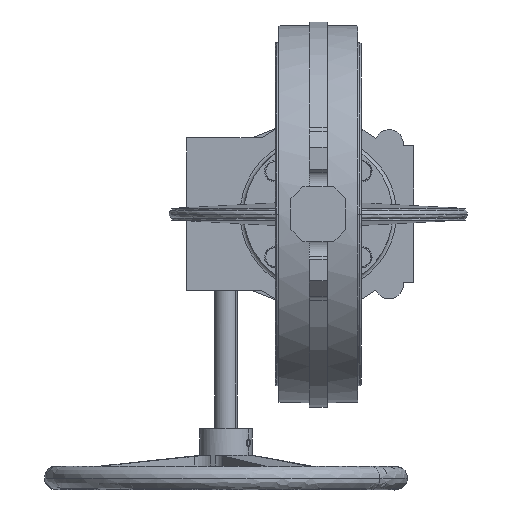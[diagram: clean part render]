
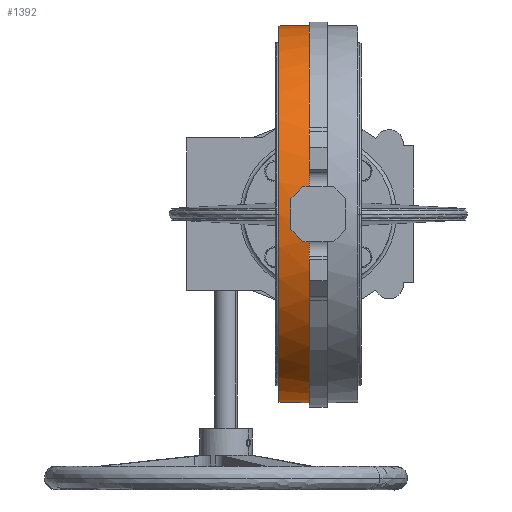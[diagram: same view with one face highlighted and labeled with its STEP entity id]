
A CAD part, front view. The second image highlights one B-rep face of the part: STEP entity #1392.
In plain terms, the highlighted conical face has half-angle 1 degrees and reference radius 158.445 mm.
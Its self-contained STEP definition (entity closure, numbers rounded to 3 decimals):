
#499 = VERTEX_POINT ( 'NONE', #22527 ) ;
#760 = CARTESIAN_POINT ( 'NONE',  ( -7.5, -156.767, -23. ) ) ;
#1392 = ADVANCED_FACE ( 'NONE', ( #46652 ), #41630, .T. ) ;
#1664 = CARTESIAN_POINT ( 'NONE',  ( -11.167, -156.702, -23. ) ) ;
#2803 = CIRCLE ( 'NONE', #80291, 158.445 ) ;
#4036 = EDGE_CURVE ( 'NONE', #499, #58496, #23493, .T. ) ;
#6650 = DIRECTION ( 'NONE',  ( 0., 0., -1. ) ) ;
#10061 = EDGE_CURVE ( 'NONE', #60715, #54556, #21419, .T. ) ;
#10356 = CARTESIAN_POINT ( 'NONE',  ( -13., -156.67, 23. ) ) ;
#12200 = CARTESIAN_POINT ( 'NONE',  ( -13., -156.67, 23. ) ) ;
#13071 = DIRECTION ( 'NONE',  ( 0., 0., -1. ) ) ;
#13372 = CARTESIAN_POINT ( 'NONE',  ( -9.333, -156.735, -23. ) ) ;
#13735 = CARTESIAN_POINT ( 'NONE',  ( -7.5, 0., 0. ) ) ;
#14024 = DIRECTION ( 'NONE',  ( 1., 0., 0. ) ) ;
#14497 = CARTESIAN_POINT ( 'NONE',  ( -33., 0., -158. ) ) ;
#15428 = VERTEX_POINT ( 'NONE', #760 ) ;
#15651 = DIRECTION ( 'NONE',  ( 0., 0., -1. ) ) ;
#17791 = CARTESIAN_POINT ( 'NONE',  ( -7.5, 0., 0. ) ) ;
#20905 = ORIENTED_EDGE ( 'NONE', *, *, #34296, .T. ) ;
#21190 = VERTEX_POINT ( 'NONE', #26974 ) ;
#21419 = LINE ( 'NONE', #28310, #66101 ) ;
#22527 = CARTESIAN_POINT ( 'NONE',  ( -23., -157.639, 13. ) ) ;
#23493 =( BOUNDED_CURVE ( )  B_SPLINE_CURVE ( 3, ( #45512, #38584, #25610, #52884 ),
 .UNSPECIFIED., .F., .F. ) 
 B_SPLINE_CURVE_WITH_KNOTS ( ( 4, 4 ),
 ( 4.777, 4.841 ),
 .UNSPECIFIED. ) 
 CURVE ( )  GEOMETRIC_REPRESENTATION_ITEM ( )  RATIONAL_B_SPLINE_CURVE ( ( 1., 1., 1., 1. ) ) 
 REPRESENTATION_ITEM ( '' )  );
#23819 = EDGE_CURVE ( 'NONE', #33566, #72779, #29057, .T. ) ;
#24321 = CARTESIAN_POINT ( 'NONE',  ( -23., -157.639, -13. ) ) ;
#25610 = CARTESIAN_POINT ( 'NONE',  ( -16.322, -157.099, 19.678 ) ) ;
#26077 = EDGE_CURVE ( 'NONE', #52808, #60715, #47683, .T. ) ;
#26974 = CARTESIAN_POINT ( 'NONE',  ( -7.5, -156.767, 23. ) ) ;
#27081 = EDGE_CURVE ( 'NONE', #72779, #499, #74126, .T. ) ;
#27579 = CARTESIAN_POINT ( 'NONE',  ( -7.5, 0., 158.445 ) ) ;
#28111 = CARTESIAN_POINT ( 'NONE',  ( -7.5, -156.767, -23. ) ) ;
#28310 = CARTESIAN_POINT ( 'NONE',  ( -7.5, 0., -158.445 ) ) ;
#29057 =( BOUNDED_CURVE ( )  B_SPLINE_CURVE ( 3, ( #36437, #84034, #36872, #24321 ),
 .UNSPECIFIED., .F., .F. ) 
 B_SPLINE_CURVE_WITH_KNOTS ( ( 4, 4 ),
 ( 1.442, 1.506 ),
 .UNSPECIFIED. ) 
 CURVE ( )  GEOMETRIC_REPRESENTATION_ITEM ( )  RATIONAL_B_SPLINE_CURVE ( ( 1., 1., 1., 1. ) ) 
 REPRESENTATION_ITEM ( '' )  );
#29089 = CARTESIAN_POINT ( 'NONE',  ( -23., 0., 0. ) ) ;
#30643 = CARTESIAN_POINT ( 'NONE',  ( -33., 0., 158. ) ) ;
#30938 = CIRCLE ( 'NONE', #30994, 158.445 ) ;
#30994 = AXIS2_PLACEMENT_3D ( 'NONE', #84976, #59029, #13071 ) ;
#33194 = ORIENTED_EDGE ( 'NONE', *, *, #23819, .T. ) ;
#33566 = VERTEX_POINT ( 'NONE', #40631 ) ;
#34296 = EDGE_CURVE ( 'NONE', #54556, #15428, #2803, .T. ) ;
#34523 = DIRECTION ( 'NONE',  ( 0., 0., -1. ) ) ;
#35035 = CARTESIAN_POINT ( 'NONE',  ( -7.5, 0., -158.445 ) ) ;
#36059 = VECTOR ( 'NONE', #47458, 1000. ) ;
#36077 = AXIS2_PLACEMENT_3D ( 'NONE', #13735, #41404, #34523 ) ;
#36366 = CARTESIAN_POINT ( 'NONE',  ( -11.167, -156.702, 23. ) ) ;
#36437 = CARTESIAN_POINT ( 'NONE',  ( -13., -156.67, -23. ) ) ;
#36799 = CARTESIAN_POINT ( 'NONE',  ( -7.5, -156.767, 23. ) ) ;
#36872 = CARTESIAN_POINT ( 'NONE',  ( -19.657, -157.422, -16.343 ) ) ;
#38584 = CARTESIAN_POINT ( 'NONE',  ( -19.657, -157.422, 16.343 ) ) ;
#39386 = AXIS2_PLACEMENT_3D ( 'NONE', #45224, #14024, #6650 ) ;
#39478 = VERTEX_POINT ( 'NONE', #48727 ) ;
#40631 = CARTESIAN_POINT ( 'NONE',  ( -13., -156.67, -23. ) ) ;
#41404 = DIRECTION ( 'NONE',  ( 1., 0., 0. ) ) ;
#41630 = CONICAL_SURFACE ( 'NONE', #36077, 158.445, 0.017 ) ;
#41700 = CARTESIAN_POINT ( 'NONE',  ( -23., -157.639, -13. ) ) ;
#41826 = EDGE_CURVE ( 'NONE', #58496, #21190, #71746, .T. ) ;
#45224 = CARTESIAN_POINT ( 'NONE',  ( -33., 0., 0. ) ) ;
#45512 = CARTESIAN_POINT ( 'NONE',  ( -23., -157.639, 13. ) ) ;
#46652 = FACE_OUTER_BOUND ( 'NONE', #75581, .T. ) ;
#46930 = DIRECTION ( 'NONE',  ( 1., 0., -0.017 ) ) ;
#47458 = DIRECTION ( 'NONE',  ( 1., 0., 0.017 ) ) ;
#47683 = CIRCLE ( 'NONE', #39386, 158. ) ;
#48331 = EDGE_CURVE ( 'NONE', #15428, #33566, #67330, .T. ) ;
#48727 = CARTESIAN_POINT ( 'NONE',  ( -7.5, 0., 158.445 ) ) ;
#50686 = ORIENTED_EDGE ( 'NONE', *, *, #48331, .T. ) ;
#51977 = ORIENTED_EDGE ( 'NONE', *, *, #41826, .T. ) ;
#52808 = VERTEX_POINT ( 'NONE', #30643 ) ;
#52884 = CARTESIAN_POINT ( 'NONE',  ( -13., -156.67, 23. ) ) ;
#53856 = EDGE_CURVE ( 'NONE', #52808, #39478, #73874, .T. ) ;
#54556 = VERTEX_POINT ( 'NONE', #35035 ) ;
#55473 = DIRECTION ( 'NONE',  ( 0., 0., -1. ) ) ;
#57612 = ORIENTED_EDGE ( 'NONE', *, *, #26077, .T. ) ;
#58496 = VERTEX_POINT ( 'NONE', #12200 ) ;
#58885 = AXIS2_PLACEMENT_3D ( 'NONE', #29089, #60702, #15651 ) ;
#59029 = DIRECTION ( 'NONE',  ( -1., 0., 0. ) ) ;
#60150 = CARTESIAN_POINT ( 'NONE',  ( -13., -156.67, -23. ) ) ;
#60702 = DIRECTION ( 'NONE',  ( -1., 0., 0. ) ) ;
#60715 = VERTEX_POINT ( 'NONE', #14497 ) ;
#62772 = CARTESIAN_POINT ( 'NONE',  ( -9.333, -156.735, 23. ) ) ;
#63666 = DIRECTION ( 'NONE',  ( -1., 0., 0. ) ) ;
#66101 = VECTOR ( 'NONE', #46930, 1000. ) ;
#67330 = B_SPLINE_CURVE_WITH_KNOTS ( 'NONE', 3,
 ( #28111, #13372, #1664, #60150 ),
 .UNSPECIFIED., .F., .F.,
 ( 4, 4 ),
 ( 0., 1. ),
 .UNSPECIFIED. ) ;
#69578 = EDGE_CURVE ( 'NONE', #21190, #39478, #30938, .T. ) ;
#71746 = B_SPLINE_CURVE_WITH_KNOTS ( 'NONE', 3,
 ( #10356, #36366, #62772, #36799 ),
 .UNSPECIFIED., .F., .F.,
 ( 4, 4 ),
 ( 0., 1. ),
 .UNSPECIFIED. ) ;
#71844 = ORIENTED_EDGE ( 'NONE', *, *, #10061, .T. ) ;
#72779 = VERTEX_POINT ( 'NONE', #41700 ) ;
#73874 = LINE ( 'NONE', #27579, #36059 ) ;
#74126 = CIRCLE ( 'NONE', #58885, 158.175 ) ;
#75034 = ORIENTED_EDGE ( 'NONE', *, *, #53856, .F. ) ;
#75104 = ORIENTED_EDGE ( 'NONE', *, *, #27081, .T. ) ;
#75581 = EDGE_LOOP ( 'NONE', ( #75034, #57612, #71844, #20905, #50686, #33194, #75104, #84662, #51977, #77175 ) ) ;
#77175 = ORIENTED_EDGE ( 'NONE', *, *, #69578, .T. ) ;
#80291 = AXIS2_PLACEMENT_3D ( 'NONE', #17791, #63666, #55473 ) ;
#84034 = CARTESIAN_POINT ( 'NONE',  ( -16.322, -157.099, -19.678 ) ) ;
#84662 = ORIENTED_EDGE ( 'NONE', *, *, #4036, .T. ) ;
#84976 = CARTESIAN_POINT ( 'NONE',  ( -7.5, 0., 0. ) ) ;
